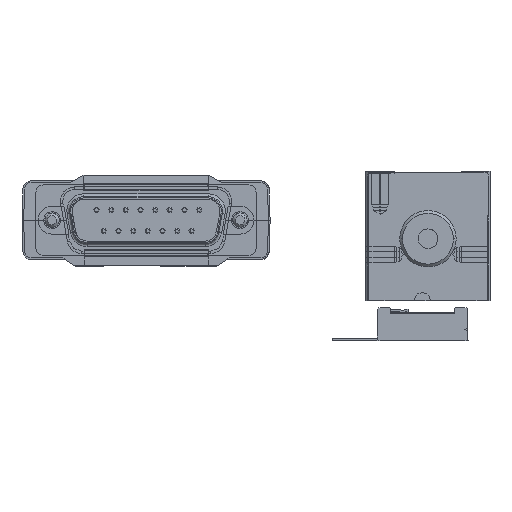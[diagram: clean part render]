
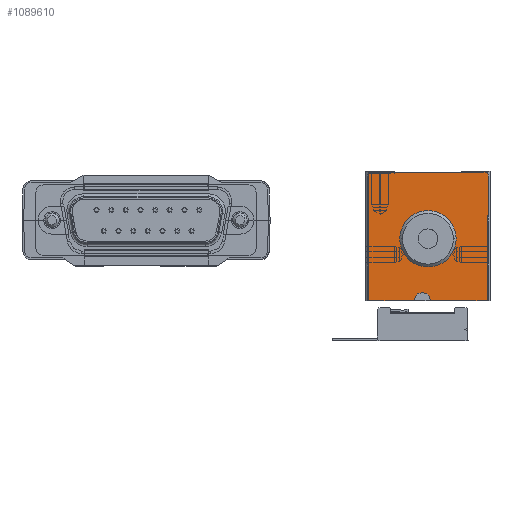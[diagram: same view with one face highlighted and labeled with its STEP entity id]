
A CAD part, front view. The second image highlights one B-rep face of the part: STEP entity #1089610.
In plain terms, the highlighted planar face has unit normal (0, -1, 0) as drawn and (1, 0, 0) by its records, which use the part's own axes.
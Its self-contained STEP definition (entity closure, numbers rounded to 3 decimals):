
#1080930=CARTESIAN_POINT('',(40.,22.,0.));
#1080940=DIRECTION('',(0.,-1.,0.));
#1080950=VECTOR('',#1080940,1.);
#1080960=LINE('',#1080930,#1080950);
#1080970=CARTESIAN_POINT('',(40.,5.,0.));
#1080980=VERTEX_POINT('',#1080970);
#1080990=CARTESIAN_POINT('',(40.,0.5,0.));
#1081000=VERTEX_POINT('',#1080990);
#1081010=EDGE_CURVE('',#1080980,#1081000,#1080960,.T.);
#1083880=CARTESIAN_POINT('',(40.,0.5,-23.));
#1083890=VERTEX_POINT('',#1083880);
#1083920=CARTESIAN_POINT('',(40.,0.,-23.));
#1083930=DIRECTION('',(0.,1.,0.));
#1083940=VECTOR('',#1083930,1.);
#1083950=LINE('',#1083920,#1083940);
#1083960=CARTESIAN_POINT('',(40.,8.6,-23.));
#1083970=VERTEX_POINT('',#1083960);
#1083980=EDGE_CURVE('',#1083890,#1083970,#1083950,.T.);
#1084200=CARTESIAN_POINT('',(40.,11.4,-23.));
#1084210=VERTEX_POINT('',#1084200);
#1084240=CARTESIAN_POINT('',(40.,21.5,-23.));
#1084250=VERTEX_POINT('',#1084240);
#1084260=EDGE_CURVE('',#1084210,#1084250,#1083950,.T.);
#1086180=CARTESIAN_POINT('',(40.,11.4,0.));
#1086190=DIRECTION('',(0.,0.,1.));
#1086200=VECTOR('',#1086190,1.);
#1086210=LINE('',#1086180,#1086200);
#1086220=CARTESIAN_POINT('',(40.,11.4,-22.8));
#1086230=VERTEX_POINT('',#1086220);
#1086240=EDGE_CURVE('',#1084210,#1086230,#1086210,.T.);
#1086910=CARTESIAN_POINT('',(40.,9.8,-22.8));
#1086920=DIRECTION('',(-1.,0.,0.));
#1086930=DIRECTION('',(0.,1.,0.));
#1086940=AXIS2_PLACEMENT_3D('',#1086910,#1086920,#1086930);
#1086950=CIRCLE('',#1086940,1.2);
#1086960=CARTESIAN_POINT('',(40.,8.6,-22.8));
#1086970=VERTEX_POINT('',#1086960);
#1086980=CARTESIAN_POINT('',(40.,9.8,-21.6));
#1086990=VERTEX_POINT('',#1086980);
#1087000=EDGE_CURVE('',#1086970,#1086990,#1086950,.T.);
#1087230=CARTESIAN_POINT('',(40.,0.,-21.6));
#1087240=DIRECTION('',(0.,-1.,0.));
#1087250=VECTOR('',#1087240,1.);
#1087260=LINE('',#1087230,#1087250);
#1087270=CARTESIAN_POINT('',(40.,10.2,-21.6));
#1087280=VERTEX_POINT('',#1087270);
#1087290=EDGE_CURVE('',#1087280,#1086990,#1087260,.T.);
#1087490=CARTESIAN_POINT('',(40.,10.2,-22.8));
#1087500=DIRECTION('',(-1.,0.,0.));
#1087510=DIRECTION('',(0.,1.,0.));
#1087520=AXIS2_PLACEMENT_3D('',#1087490,#1087500,#1087510);
#1087530=CIRCLE('',#1087520,1.2);
#1087540=EDGE_CURVE('',#1087280,#1086230,#1087530,.T.);
#1087670=CARTESIAN_POINT('',(40.,8.6,0.));
#1087680=DIRECTION('',(0.,0.,-1.));
#1087690=VECTOR('',#1087680,1.);
#1087700=LINE('',#1087670,#1087690);
#1087710=EDGE_CURVE('',#1086970,#1083970,#1087700,.T.);
#1087820=CARTESIAN_POINT('',(40.,5.846,-7.9));
#1087830=DIRECTION('',(0.,-1.,0.));
#1087840=VECTOR('',#1087830,1.);
#1087850=LINE('',#1087820,#1087840);
#1087860=CARTESIAN_POINT('',(40.,21.8,-7.9));
#1087870=VERTEX_POINT('',#1087860);
#1087880=CARTESIAN_POINT('',(40.,21.5,-7.9));
#1087890=VERTEX_POINT('',#1087880);
#1087900=EDGE_CURVE('',#1087870,#1087890,#1087850,.T.);
#1088630=CARTESIAN_POINT('',(40.,0.1,-0.8))
;
#1088640=DIRECTION('',(1.,-0.,0.));
#1088650=DIRECTION('',(0.,0.,-1.));
#1088660=AXIS2_PLACEMENT_3D('',#1088630,#1088640,#1088650);
#1088670=PLANE('',#1088660);
#1088680=CARTESIAN_POINT('',(40.,20.9,-1.1));
#1088690=DIRECTION('',(1.,0.,0.));
#1088700=DIRECTION('',(0.,-1.,0.));
#1088710=AXIS2_PLACEMENT_3D('',#1088680,#1088690,#1088700);
#1088720=CIRCLE('',#1088710,0.9);
#1088730=CARTESIAN_POINT('',(40.,21.8,-1.1));
#1088740=VERTEX_POINT('',#1088730);
#1088750=CARTESIAN_POINT('',(40.,20.9,-0.2));
#1088760=VERTEX_POINT('',#1088750);
#1088770=EDGE_CURVE('',#1088740,#1088760,#1088720,.T.);
#1088780=ORIENTED_EDGE('',*,*,#1088770,.T.);
#1088790=CARTESIAN_POINT('',(40.,21.8,-0.8));
#1088800=DIRECTION('',(0.,0.,1.));
#1088810=VECTOR('',#1088800,1.);
#1088820=LINE('',#1088790,#1088810);
#1088830=EDGE_CURVE('',#1087870,#1088740,#1088820,.T.);
#1088840=ORIENTED_EDGE('',*,*,#1088830,.T.);
#1088850=ORIENTED_EDGE('',*,*,#1087900,.F.);
#1088860=CARTESIAN_POINT('',(40.,21.5,0.));
#1088870=DIRECTION('',(0.,0.,1.));
#1088880=VECTOR('',#1088870,1.);
#1088890=LINE('',#1088860,#1088880);
#1088900=CARTESIAN_POINT('',(40.,21.5,-8.));
#1088910=VERTEX_POINT('',#1088900);
#1088920=EDGE_CURVE('',#1088910,#1087890,#1088890,.T.);
#1088930=ORIENTED_EDGE('',*,*,#1088920,.T.);
#1088940=CARTESIAN_POINT('',(40.,21.5,-15.5));
#1088950=DIRECTION('',(0.,0.,-1.));
#1088960=VECTOR('',#1088950,1.);
#1088970=LINE('',#1088940,#1088960);
#1088980=EDGE_CURVE('',#1088910,#1084250,#1088970,.T.);
#1088990=ORIENTED_EDGE('',*,*,#1088980,.F.);
#1089000=ORIENTED_EDGE('',*,*,#1084260,.T.);
#1089010=ORIENTED_EDGE('',*,*,#1086240,.F.);
#1089020=ORIENTED_EDGE('',*,*,#1087540,.T.);
#1089030=ORIENTED_EDGE('',*,*,#1087290,.F.);
#1089040=ORIENTED_EDGE('',*,*,#1087000,.T.);
#1089050=ORIENTED_EDGE('',*,*,#1087710,.F.);
#1089060=ORIENTED_EDGE('',*,*,#1083980,.T.);
#1089070=CARTESIAN_POINT('',(40.,0.5,-11.5));
#1089080=DIRECTION('',(0.,0.,-1.));
#1089090=VECTOR('',#1089080,1.);
#1089100=LINE('',#1089070,#1089090);
#1089110=EDGE_CURVE('',#1081000,#1083890,#1089100,.T.);
#1089120=ORIENTED_EDGE('',*,*,#1089110,.T.);
#1089130=ORIENTED_EDGE('',*,*,#1081010,.T.);
#1089140=CARTESIAN_POINT('',(40.,5.,0.));
#1089150=DIRECTION('',(0.,0.,-1.));
#1089160=VECTOR('',#1089150,1.);
#1089170=LINE('',#1089140,#1089160);
#1089180=CARTESIAN_POINT('',(40.,5.,-0.5));
#1089190=VERTEX_POINT('',#1089180);
#1089200=EDGE_CURVE('',#1080980,#1089190,#1089170,.T.);
#1089210=ORIENTED_EDGE('',*,*,#1089200,.F.);
#1089220=CARTESIAN_POINT('',(40.,0.,-0.5));
#1089230=DIRECTION('',(0.,-1.,0.));
#1089240=VECTOR('',#1089230,1.);
#1089250=LINE('',#1089220,#1089240);
#1089260=CARTESIAN_POINT('',(40.,5.05,-0.5));
#1089270=VERTEX_POINT('',#1089260);
#1089280=EDGE_CURVE('',#1089270,#1089190,#1089250,.T.);
#1089290=ORIENTED_EDGE('',*,*,#1089280,.T.);
#1089300=CARTESIAN_POINT('',(40.,5.05,-0.8));
#1089310=DIRECTION('',(0.,0.,1.));
#1089320=VECTOR('',#1089310,1.);
#1089330=LINE('',#1089300,#1089320);
#1089340=CARTESIAN_POINT('',(40.,5.05,-0.2));
#1089350=VERTEX_POINT('',#1089340);
#1089360=EDGE_CURVE('',#1089270,#1089350,#1089330,.T.);
#1089370=ORIENTED_EDGE('',*,*,#1089360,.F.);
#1089380=CARTESIAN_POINT('',(40.,5.646,-0.2));
#1089390=DIRECTION('',(0.,1.,0.));
#1089400=VECTOR('',#1089390,1.);
#1089410=LINE('',#1089380,#1089400);
#1089420=EDGE_CURVE('',#1089350,#1088760,#1089410,.T.);
#1089430=ORIENTED_EDGE('',*,*,#1089420,.F.);
#1089440=EDGE_LOOP('',(#1089430,#1089370,#1089290,#1089210,#1089130,
#1089120,#1089060,#1089050,#1089040,#1089030,#1089020,#1089010,#1089000,
#1088990,#1088930,#1088850,#1088840,#1088780));
#1089450=FACE_OUTER_BOUND('',#1089440,.T.);
#1089460=CARTESIAN_POINT('',(40.,11.,-12.));
#1089470=DIRECTION('',(1.,0.,0.));
#1089480=DIRECTION('',(0.,1.,0.));
#1089490=AXIS2_PLACEMENT_3D('',#1089460,#1089470,#1089480);
#1089500=CIRCLE('',#1089490,5.);
#1089510=CARTESIAN_POINT('',(40.,16.,-12.));
#1089520=VERTEX_POINT('',#1089510);
#1089530=CARTESIAN_POINT('',(40.,6.,-12.));
#1089540=VERTEX_POINT('',#1089530);
#1089550=EDGE_CURVE('',#1089520,#1089540,#1089500,.T.);
#1089560=ORIENTED_EDGE('',*,*,#1089550,.F.);
#1089570=EDGE_CURVE('',#1089540,#1089520,#1089500,.T.);
#1089580=ORIENTED_EDGE('',*,*,#1089570,.F.);
#1089590=EDGE_LOOP('',(#1089580,#1089560));
#1089600=FACE_BOUND('',#1089590,.T.);
#1089610=ADVANCED_FACE('',(#1089450,#1089600),#1088670,.T.);
